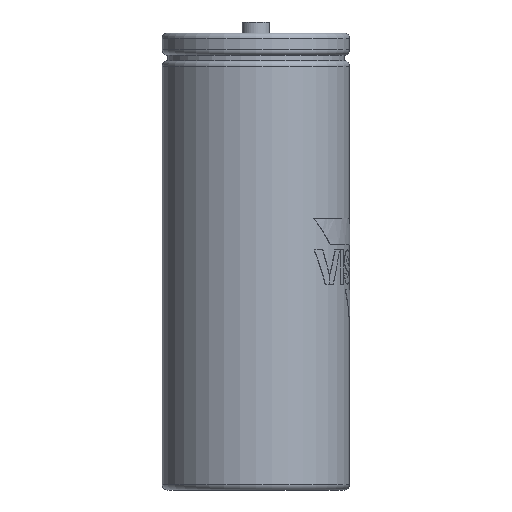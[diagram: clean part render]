
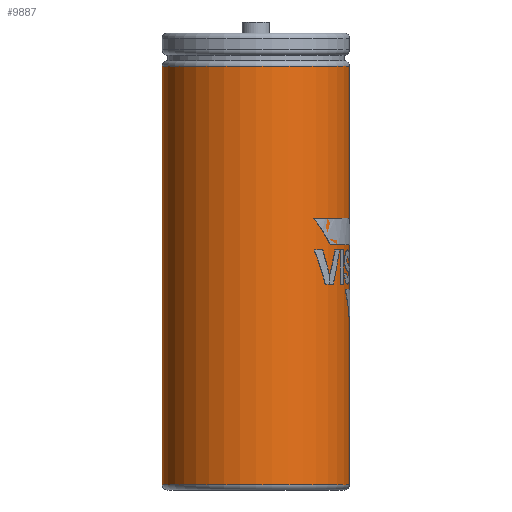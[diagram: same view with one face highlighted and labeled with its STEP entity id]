
A CAD part, left-side view. The second image highlights one B-rep face of the part: STEP entity #9887.
In plain terms, the highlighted cylindrical face has radius 44.7 mm (diameter 89.4 mm), a full revolution.
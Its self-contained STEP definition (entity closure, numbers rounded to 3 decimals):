
#9820 = TOROIDAL_SURFACE('',#9821,42.1,2.6);
#9821 = AXIS2_PLACEMENT_3D('',#9822,#9823,#9824);
#9822 = CARTESIAN_POINT('',(0.,0.,-212.9));
#9823 = DIRECTION('',(0.,0.,1.));
#9824 = DIRECTION('',(1.,0.,0.));
#9837 = VERTEX_POINT('',#9838);
#9838 = CARTESIAN_POINT('',(44.7,0.,-212.9));
#9860 = EDGE_CURVE('',#9837,#9837,#9861,.T.);
#9861 = SURFACE_CURVE('',#9862,(#9867,#9874),.PCURVE_S1.);
#9862 = CIRCLE('',#9863,44.7);
#9863 = AXIS2_PLACEMENT_3D('',#9864,#9865,#9866);
#9864 = CARTESIAN_POINT('',(0.,0.,-212.9));
#9865 = DIRECTION('',(-0.,0.,1.));
#9866 = DIRECTION('',(1.,0.,0.));
#9867 = PCURVE('',#9820,#9868);
#9868 = DEFINITIONAL_REPRESENTATION('',(#9869),#9873);
#9869 = LINE('',#9870,#9871);
#9870 = CARTESIAN_POINT('',(0.,6.283));
#9871 = VECTOR('',#9872,1.);
#9872 = DIRECTION('',(1.,0.));
#9873 = ( GEOMETRIC_REPRESENTATION_CONTEXT(2) 
PARAMETRIC_REPRESENTATION_CONTEXT() REPRESENTATION_CONTEXT('2D SPACE',''
  ) );
#9874 = PCURVE('',#9875,#9880);
#9875 = CYLINDRICAL_SURFACE('',#9876,44.7);
#9876 = AXIS2_PLACEMENT_3D('',#9877,#9878,#9879);
#9877 = CARTESIAN_POINT('',(0.,0.,-212.9));
#9878 = DIRECTION('',(0.,0.,1.));
#9879 = DIRECTION('',(1.,0.,0.));
#9880 = DEFINITIONAL_REPRESENTATION('',(#9881),#9885);
#9881 = LINE('',#9882,#9883);
#9882 = CARTESIAN_POINT('',(0.,0.));
#9883 = VECTOR('',#9884,1.);
#9884 = DIRECTION('',(1.,0.));
#9885 = ( GEOMETRIC_REPRESENTATION_CONTEXT(2) 
PARAMETRIC_REPRESENTATION_CONTEXT() REPRESENTATION_CONTEXT('2D SPACE',''
  ) );
#9887 = ADVANCED_FACE('',(#9888),#9875,.T.);
#9888 = FACE_BOUND('',#9889,.T.);
#9889 = EDGE_LOOP('',(#9890,#9891,#9914,#9941));
#9890 = ORIENTED_EDGE('',*,*,#9860,.T.);
#9891 = ORIENTED_EDGE('',*,*,#9892,.T.);
#9892 = EDGE_CURVE('',#9837,#9893,#9895,.T.);
#9893 = VERTEX_POINT('',#9894);
#9894 = CARTESIAN_POINT('',(44.7,0.,-13.2));
#9895 = SEAM_CURVE('',#9896,(#9900,#9907),.PCURVE_S1.);
#9896 = LINE('',#9897,#9898);
#9897 = CARTESIAN_POINT('',(44.7,0.,-212.9));
#9898 = VECTOR('',#9899,1.);
#9899 = DIRECTION('',(0.,0.,1.));
#9900 = PCURVE('',#9875,#9901);
#9901 = DEFINITIONAL_REPRESENTATION('',(#9902),#9906);
#9902 = LINE('',#9903,#9904);
#9903 = CARTESIAN_POINT('',(0.,0.));
#9904 = VECTOR('',#9905,1.);
#9905 = DIRECTION('',(0.,1.));
#9906 = ( GEOMETRIC_REPRESENTATION_CONTEXT(2) 
PARAMETRIC_REPRESENTATION_CONTEXT() REPRESENTATION_CONTEXT('2D SPACE',''
  ) );
#9907 = PCURVE('',#9875,#9908);
#9908 = DEFINITIONAL_REPRESENTATION('',(#9909),#9913);
#9909 = LINE('',#9910,#9911);
#9910 = CARTESIAN_POINT('',(6.283,0.));
#9911 = VECTOR('',#9912,1.);
#9912 = DIRECTION('',(0.,1.));
#9913 = ( GEOMETRIC_REPRESENTATION_CONTEXT(2) 
PARAMETRIC_REPRESENTATION_CONTEXT() REPRESENTATION_CONTEXT('2D SPACE',''
  ) );
#9914 = ORIENTED_EDGE('',*,*,#9915,.F.);
#9915 = EDGE_CURVE('',#9893,#9893,#9916,.T.);
#9916 = SURFACE_CURVE('',#9917,(#9922,#9929),.PCURVE_S1.);
#9917 = CIRCLE('',#9918,44.7);
#9918 = AXIS2_PLACEMENT_3D('',#9919,#9920,#9921);
#9919 = CARTESIAN_POINT('',(0.,0.,-13.2));
#9920 = DIRECTION('',(-0.,0.,1.));
#9921 = DIRECTION('',(1.,0.,0.));
#9922 = PCURVE('',#9875,#9923);
#9923 = DEFINITIONAL_REPRESENTATION('',(#9924),#9928);
#9924 = LINE('',#9925,#9926);
#9925 = CARTESIAN_POINT('',(0.,199.7));
#9926 = VECTOR('',#9927,1.);
#9927 = DIRECTION('',(1.,0.));
#9928 = ( GEOMETRIC_REPRESENTATION_CONTEXT(2) 
PARAMETRIC_REPRESENTATION_CONTEXT() REPRESENTATION_CONTEXT('2D SPACE',''
  ) );
#9929 = PCURVE('',#9930,#9935);
#9930 = TOROIDAL_SURFACE('',#9931,42.1,2.6);
#9931 = AXIS2_PLACEMENT_3D('',#9932,#9933,#9934);
#9932 = CARTESIAN_POINT('',(0.,0.,-13.2));
#9933 = DIRECTION('',(0.,0.,1.));
#9934 = DIRECTION('',(1.,0.,0.));
#9935 = DEFINITIONAL_REPRESENTATION('',(#9936),#9940);
#9936 = LINE('',#9937,#9938);
#9937 = CARTESIAN_POINT('',(0.,0.));
#9938 = VECTOR('',#9939,1.);
#9939 = DIRECTION('',(1.,0.));
#9940 = ( GEOMETRIC_REPRESENTATION_CONTEXT(2) 
PARAMETRIC_REPRESENTATION_CONTEXT() REPRESENTATION_CONTEXT('2D SPACE',''
  ) );
#9941 = ORIENTED_EDGE('',*,*,#9892,.F.);
